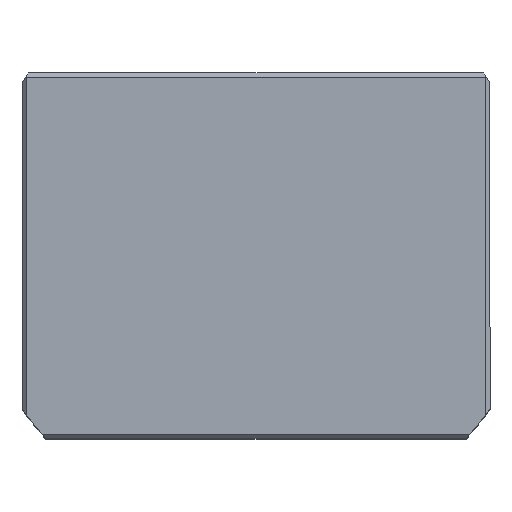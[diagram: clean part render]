
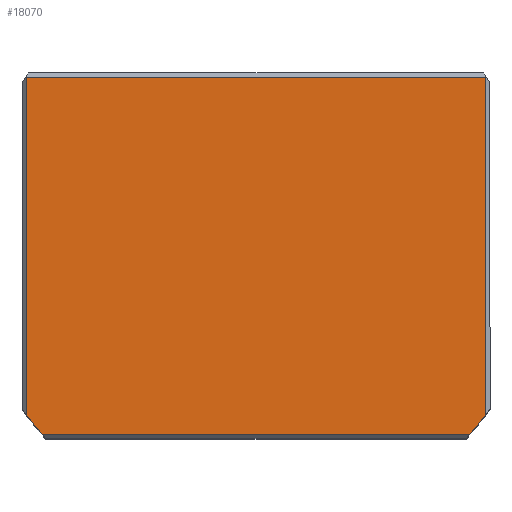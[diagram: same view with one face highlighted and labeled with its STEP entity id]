
A CAD part, top view. The second image highlights one B-rep face of the part: STEP entity #18070.
In plain terms, the highlighted planar face has unit normal (0, 0, 1) as drawn and (0, 0, -1) by its records, which use the part's own axes.
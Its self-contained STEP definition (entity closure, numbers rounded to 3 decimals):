
#88 = ORIENTED_EDGE ( 'NONE', *, *, #6062, .T. ) ;
#813 = CARTESIAN_POINT ( 'NONE',  ( 52.098, 43.5, 0. ) ) ;
#865 = DIRECTION ( 'NONE',  ( 0., 0., 1. ) ) ;
#1455 = ORIENTED_EDGE ( 'NONE', *, *, #16636, .F. ) ;
#2272 = LINE ( 'NONE', #15089, #16463 ) ;
#2322 = CARTESIAN_POINT ( 'NONE',  ( 56., 38.661, 0. ) ) ;
#2606 = VERTEX_POINT ( 'NONE', #15373 ) ;
#2986 = ORIENTED_EDGE ( 'NONE', *, *, #3602, .T. ) ;
#3298 = VERTEX_POINT ( 'NONE', #2322 ) ;
#3383 = CARTESIAN_POINT ( 'NONE',  ( 0., 43.5, 0. ) ) ;
#3602 = EDGE_CURVE ( 'NONE', #14535, #16066, #15339, .T. ) ;
#4057 = CARTESIAN_POINT ( 'NONE',  ( 0., -43.5, 0. ) ) ;
#4188 = AXIS2_PLACEMENT_3D ( 'NONE', #14434, #15916, #7139 ) ;
#4637 = ORIENTED_EDGE ( 'NONE', *, *, #11081, .T. ) ;
#4846 = DIRECTION ( 'NONE',  ( 1., 0., 0. ) ) ;
#5119 = EDGE_LOOP ( 'NONE', ( #1455, #17553, #2986, #4637, #9575, #88 ) ) ;
#5236 = VECTOR ( 'NONE', #4846, 1000. ) ;
#5316 = DIRECTION ( 'NONE',  ( 0., 0., 1. ) ) ;
#5909 = AXIS2_PLACEMENT_3D ( 'NONE', #9616, #865, #11101 ) ;
#6062 = EDGE_CURVE ( 'NONE', #2606, #10934, #13012, .T. ) ;
#6088 = EDGE_CURVE ( 'NONE', #3298, #14535, #2272, .T. ) ;
#7074 = PLANE ( 'NONE',  #4188 ) ;
#7139 = DIRECTION ( 'NONE',  ( 1., 0., 0. ) ) ;
#7785 = DIRECTION ( 'NONE',  ( 0., -1., 0. ) ) ;
#8459 = VECTOR ( 'NONE', #14299, 1000. ) ;
#8489 = AXIS2_PLACEMENT_3D ( 'NONE', #14077, #5316, #15552 ) ;
#9575 = ORIENTED_EDGE ( 'NONE', *, *, #17563, .F. ) ;
#9616 = CARTESIAN_POINT ( 'NONE',  ( 0., -2.5, 0. ) ) ;
#10172 = CARTESIAN_POINT ( 'NONE',  ( -56., 38.661, 0. ) ) ;
#10934 = VERTEX_POINT ( 'NONE', #813 ) ;
#11081 = EDGE_CURVE ( 'NONE', #16066, #18528, #18869, .T. ) ;
#11101 = DIRECTION ( 'NONE',  ( 1., 0., 0. ) ) ;
#11292 = FACE_OUTER_BOUND ( 'NONE', #5119, .T. ) ;
#12475 = CARTESIAN_POINT ( 'NONE',  ( 56., -43.5, 0. ) ) ;
#13012 = LINE ( 'NONE', #3383, #5236 ) ;
#14077 = CARTESIAN_POINT ( 'NONE',  ( 0., -2.5, 0. ) ) ;
#14299 = DIRECTION ( 'NONE',  ( -1., 0., 0. ) ) ;
#14434 = CARTESIAN_POINT ( 'NONE',  ( 0., 0., 0. ) ) ;
#14535 = VERTEX_POINT ( 'NONE', #12475 ) ;
#15040 = VECTOR ( 'NONE', #16981, 1000. ) ;
#15089 = CARTESIAN_POINT ( 'NONE',  ( 56., 0., 0. ) ) ;
#15339 = LINE ( 'NONE', #4057, #8459 ) ;
#15373 = CARTESIAN_POINT ( 'NONE',  ( -52.098, 43.5, 0. ) ) ;
#15518 = CARTESIAN_POINT ( 'NONE',  ( -56., 0., 0. ) ) ;
#15552 = DIRECTION ( 'NONE',  ( 1., 0., 0. ) ) ;
#15916 = DIRECTION ( 'NONE',  ( 0., 0., 1. ) ) ;
#16066 = VERTEX_POINT ( 'NONE', #16481 ) ;
#16463 = VECTOR ( 'NONE', #7785, 1000. ) ;
#16481 = CARTESIAN_POINT ( 'NONE',  ( -56., -43.5, 0. ) ) ;
#16636 = EDGE_CURVE ( 'NONE', #3298, #10934, #18140, .T. ) ;
#16981 = DIRECTION ( 'NONE',  ( 0., 1., 0. ) ) ;
#17553 = ORIENTED_EDGE ( 'NONE', *, *, #6088, .T. ) ;
#17563 = EDGE_CURVE ( 'NONE', #2606, #18528, #17927, .T. ) ;
#17927 = CIRCLE ( 'NONE', #8489, 69.5 ) ;
#18070 = ADVANCED_FACE ( 'NONE', ( #11292 ), #7074, .F. ) ;
#18140 = CIRCLE ( 'NONE', #5909, 69.5 ) ;
#18528 = VERTEX_POINT ( 'NONE', #10172 ) ;
#18869 = LINE ( 'NONE', #15518, #15040 ) ;
